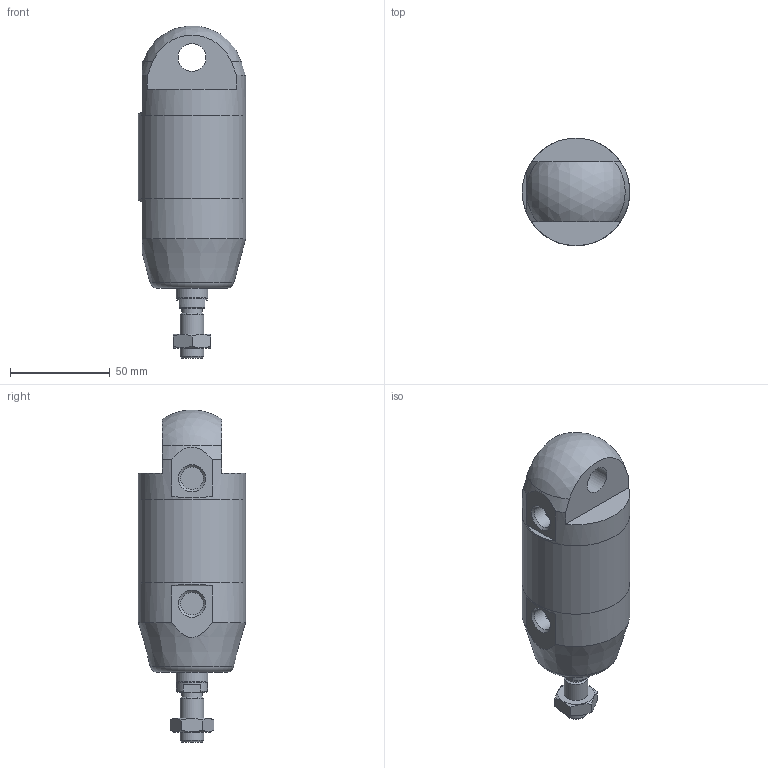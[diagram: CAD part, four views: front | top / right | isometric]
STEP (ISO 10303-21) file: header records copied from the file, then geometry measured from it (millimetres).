
FILE_DESCRIPTION(/* description */ (''),/* implementation_level */ '2;1');
FILE_NAME(/* name */ 'I:\Area Tecnica\Documenti\A-Manieri\_Inventor\12X\12X#A_###_####_#_#\12XAA_050_0000_#_#.stp',/* time_stamp */ '2015-04-22T12:09:09+02:00',/* author */ ('maniean1'),/* organization */ ('Pneumax S.p.A.'),/* preprocessor_version */ 'ST-DEVELOPER v15.2',/* originating_system */ 'Autodesk Inventor 2014',/* authorisation */ '');
FILE_SCHEMA (('AUTOMOTIVE_DESIGN { 1 0 10303 214 3 1 1 }'));
Length unit declared in the file: millimetre
Products named in the file (6): C1250_619-0000; 12X50_613; 12X50_605; S12X50_0000; 12X_50_11; 12XAA_050_0000_#_#
Bounding box: 54 x 54 x 166.83 mm (x, y, z)
Volume: 254147.5 mm3; surface area: 53681.7 mm2
Topology: 5 solids, 5 shells, 59 faces, 126 edges, 81 vertices
Faces by surface type: plane 31, cylinder 14, cone 12, torus 1, sphere 1
Full cylindrical faces by diameter (mm): 10.2 x1, 11.4 x2, 12 x2, 14 x2, 15.6 x1, 16 x1, 50 x2, 54 x3
Entity records: 1560 total; most frequent: CARTESIAN_POINT 288, DIRECTION 266, ORIENTED_EDGE 196, AXIS2_PLACEMENT_3D 120, EDGE_CURVE 98, EDGE_LOOP 94, VERTEX_POINT 76, ADVANCED_FACE 59
